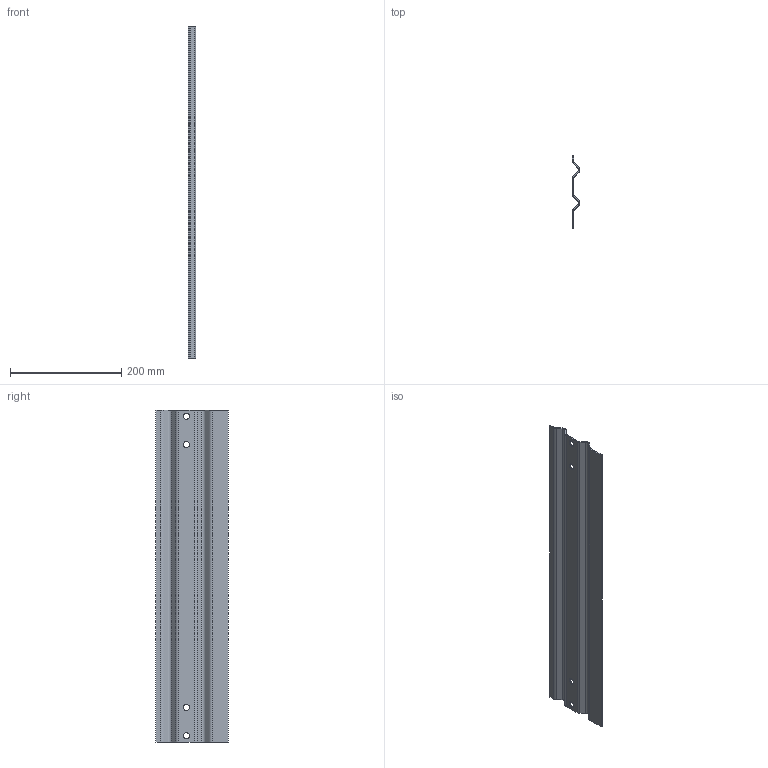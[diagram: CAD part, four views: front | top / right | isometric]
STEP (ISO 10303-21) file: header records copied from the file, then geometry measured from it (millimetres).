
FILE_DESCRIPTION((''),'2;1');
FILE_NAME('S:\Användarkataloger\AndreasA\Mina Inventor filer\Räcken\STEP\sparklist_k130_modul_600.stp','2010-09-07T13:50:01',('AndreasA'),(''),'Autodesk Inventor 2011','Autodesk Inventor 2011','');
FILE_SCHEMA(('AUTOMOTIVE_DESIGN { 1 0 10303 214 1 1 1 1 }'));
Length unit declared in the file: millimetre
Products named in the file (1): sparklist_k130_modul_600
Bounding box: 13.47 x 130 x 596 mm (x, y, z)
Volume: 216699.9 mm3; surface area: 177415.8 mm2
Topology: 1 solids, 1 shells, 34 faces, 100 edges, 68 vertices
Faces by surface type: plane 18, cylinder 16
Full cylindrical faces by diameter (mm): 11 x4
Entity records: 1134 total; most frequent: DIRECTION 194, CARTESIAN_POINT 191, ORIENTED_EDGE 184, EDGE_CURVE 92, AXIS2_PLACEMENT_3D 67, VERTEX_POINT 64, VECTOR 60, LINE 60
